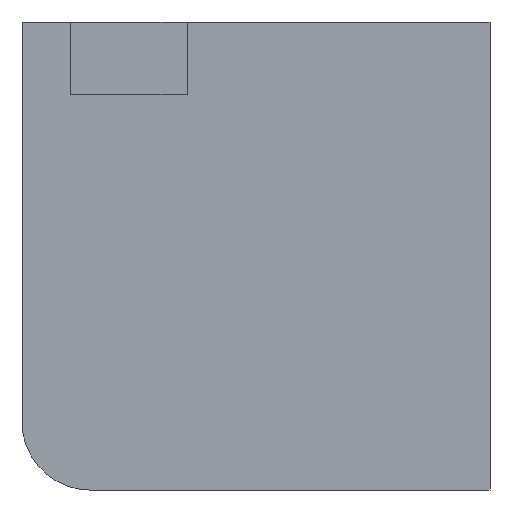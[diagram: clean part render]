
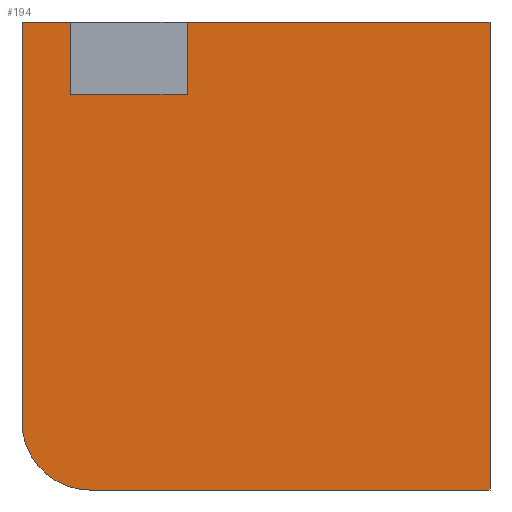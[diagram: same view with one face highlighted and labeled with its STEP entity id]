
A CAD part, front view. The second image highlights one B-rep face of the part: STEP entity #194.
In plain terms, the highlighted planar face has unit normal (0, -1, 0).
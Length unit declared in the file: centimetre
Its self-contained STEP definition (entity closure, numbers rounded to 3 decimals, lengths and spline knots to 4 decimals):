
#3 = EDGE_CURVE ( 'NONE', #385, #436, #173, .T. ) ;
#19 = ORIENTED_EDGE ( 'NONE', *, *, #569, .F. ) ;
#21 = EDGE_CURVE ( 'NONE', #127, #235, #893, .T. ) ;
#35 = DIRECTION ( 'NONE',  ( 0., 0., 1. ) ) ;
#48 = DIRECTION ( 'NONE',  ( 0., 0., -1. ) ) ;
#51 = VERTEX_POINT ( 'NONE', #742 ) ;
#86 = EDGE_CURVE ( 'NONE', #51, #127, #470, .T. ) ;
#95 = VERTEX_POINT ( 'NONE', #365 ) ;
#105 = ORIENTED_EDGE ( 'NONE', *, *, #805, .T. ) ;
#108 = LINE ( 'NONE', #192, #492 ) ;
#114 = LINE ( 'NONE', #537, #847 ) ;
#125 = DIRECTION ( 'NONE',  ( 0., 1., 0. ) ) ;
#127 = VERTEX_POINT ( 'NONE', #319 ) ;
#173 = LINE ( 'NONE', #674, #374 ) ;
#178 = DIRECTION ( 'NONE',  ( 0., -1., 0. ) ) ;
#192 = CARTESIAN_POINT ( 'NONE',  ( 103.1139, 0., 844.6876 ) ) ;
#193 = CARTESIAN_POINT ( 'NONE',  ( 0., 0., 1000. ) ) ;
#194 = ADVANCED_FACE ( 'NONE', ( #484 ), #199, .F. ) ;
#199 = PLANE ( 'NONE',  #512 ) ;
#210 = CARTESIAN_POINT ( 'NONE',  ( 0., 0., 1000. ) ) ;
#235 = VERTEX_POINT ( 'NONE', #868 ) ;
#240 = EDGE_CURVE ( 'NONE', #436, #381, #723, .T. ) ;
#248 = DIRECTION ( 'NONE',  ( 1., 0., 0. ) ) ;
#249 = DIRECTION ( 'NONE',  ( 1., 0., 0. ) ) ;
#256 = EDGE_CURVE ( 'NONE', #381, #235, #715, .T. ) ;
#282 = LINE ( 'NONE', #210, #351 ) ;
#285 = VECTOR ( 'NONE', #572, 100. ) ;
#314 = VERTEX_POINT ( 'NONE', #421 ) ;
#319 = CARTESIAN_POINT ( 'NONE',  ( 145.1491, 0., 0. ) ) ;
#346 = DIRECTION ( 'NONE',  ( 0., 0., -1. ) ) ;
#351 = VECTOR ( 'NONE', #643, 100. ) ;
#365 = CARTESIAN_POINT ( 'NONE',  ( 103.1139, 0., 1000. ) ) ;
#370 = ORIENTED_EDGE ( 'NONE', *, *, #21, .T. ) ;
#374 = VECTOR ( 'NONE', #35, 100. ) ;
#381 = VERTEX_POINT ( 'NONE', #824 ) ;
#385 = VERTEX_POINT ( 'NONE', #837 ) ;
#416 = ORIENTED_EDGE ( 'NONE', *, *, #780, .F. ) ;
#417 = VECTOR ( 'NONE', #544, 100. ) ;
#421 = CARTESIAN_POINT ( 'NONE',  ( 0., 0., 1000. ) ) ;
#422 = AXIS2_PLACEMENT_3D ( 'NONE', #659, #178, #751 ) ;
#436 = VERTEX_POINT ( 'NONE', #752 ) ;
#437 = ORIENTED_EDGE ( 'NONE', *, *, #3, .F. ) ;
#450 = ORIENTED_EDGE ( 'NONE', *, *, #86, .T. ) ;
#461 = VERTEX_POINT ( 'NONE', #692 ) ;
#470 = CIRCLE ( 'NONE', #422, 145.1491 ) ;
#484 = FACE_OUTER_BOUND ( 'NONE', #591, .T. ) ;
#492 = VECTOR ( 'NONE', #48, 100. ) ;
#496 = VECTOR ( 'NONE', #249, 100. ) ;
#501 = ORIENTED_EDGE ( 'NONE', *, *, #240, .F. ) ;
#502 = CARTESIAN_POINT ( 'NONE',  ( 1000., 0., 1000. ) ) ;
#512 = AXIS2_PLACEMENT_3D ( 'NONE', #193, #125, #770 ) ;
#537 = CARTESIAN_POINT ( 'NONE',  ( 103.1139, 0., 844.6876 ) ) ;
#544 = DIRECTION ( 'NONE',  ( 0., 0., -1. ) ) ;
#569 = EDGE_CURVE ( 'NONE', #314, #95, #282, .T. ) ;
#572 = DIRECTION ( 'NONE',  ( 1., 0., 0. ) ) ;
#575 = ORIENTED_EDGE ( 'NONE', *, *, #860, .F. ) ;
#591 = EDGE_LOOP ( 'NONE', ( #416, #575, #19, #105, #450, #370, #807, #501, #437 ) ) ;
#605 = LINE ( 'NONE', #612, #417 ) ;
#606 = CARTESIAN_POINT ( 'NONE',  ( 0., 0., 0. ) ) ;
#612 = CARTESIAN_POINT ( 'NONE',  ( 0., 0., 1000. ) ) ;
#643 = DIRECTION ( 'NONE',  ( 1., 0., 0. ) ) ;
#659 = CARTESIAN_POINT ( 'NONE',  ( 145.1491, 0., 145.1491 ) ) ;
#674 = CARTESIAN_POINT ( 'NONE',  ( 353.0082, 0., 844.6876 ) ) ;
#692 = CARTESIAN_POINT ( 'NONE',  ( 103.1139, 0., 844.6876 ) ) ;
#715 = LINE ( 'NONE', #502, #814 ) ;
#719 = CARTESIAN_POINT ( 'NONE',  ( 0., 0., 1000. ) ) ;
#723 = LINE ( 'NONE', #719, #285 ) ;
#742 = CARTESIAN_POINT ( 'NONE',  ( 0., 0., 145.1491 ) ) ;
#751 = DIRECTION ( 'NONE',  ( 0., 0., 1. ) ) ;
#752 = CARTESIAN_POINT ( 'NONE',  ( 353.0082, 0., 1000. ) ) ;
#770 = DIRECTION ( 'NONE',  ( 0., 0., 1. ) ) ;
#780 = EDGE_CURVE ( 'NONE', #461, #385, #114, .T. ) ;
#805 = EDGE_CURVE ( 'NONE', #314, #51, #605, .T. ) ;
#807 = ORIENTED_EDGE ( 'NONE', *, *, #256, .F. ) ;
#814 = VECTOR ( 'NONE', #346, 100. ) ;
#824 = CARTESIAN_POINT ( 'NONE',  ( 1000., 0., 1000. ) ) ;
#837 = CARTESIAN_POINT ( 'NONE',  ( 353.0082, 0., 844.6876 ) ) ;
#847 = VECTOR ( 'NONE', #248, 100. ) ;
#860 = EDGE_CURVE ( 'NONE', #95, #461, #108, .T. ) ;
#868 = CARTESIAN_POINT ( 'NONE',  ( 1000., 0., 0. ) ) ;
#893 = LINE ( 'NONE', #606, #496 ) ;
